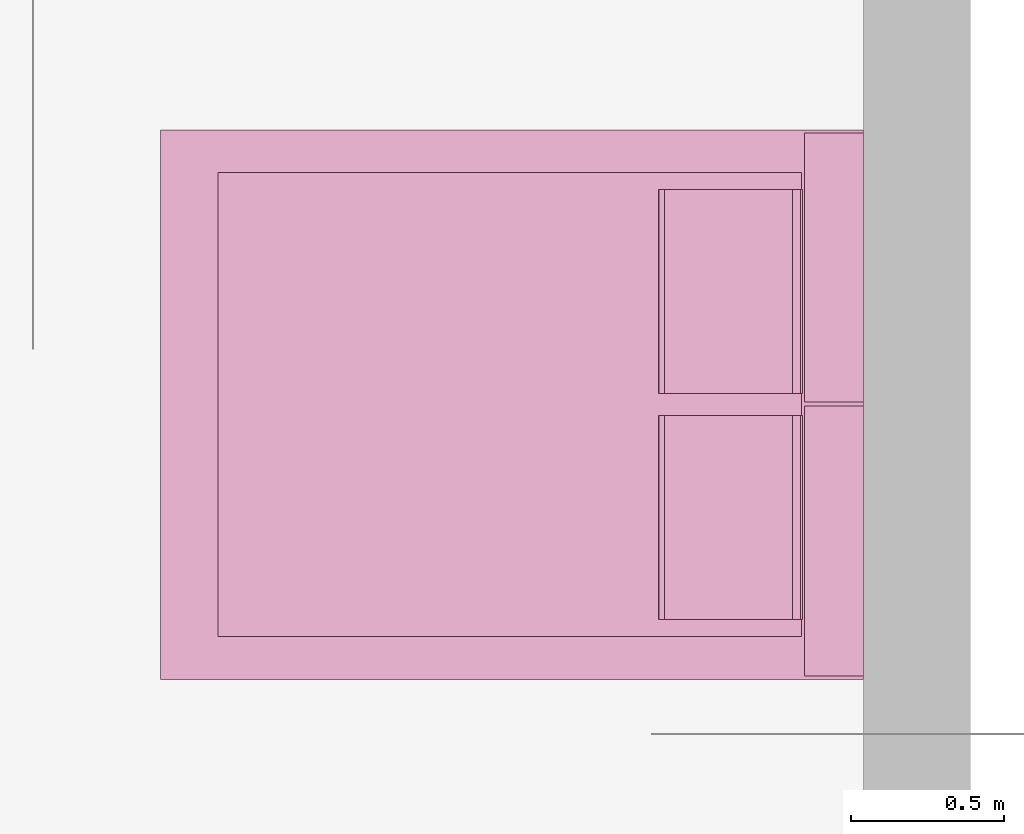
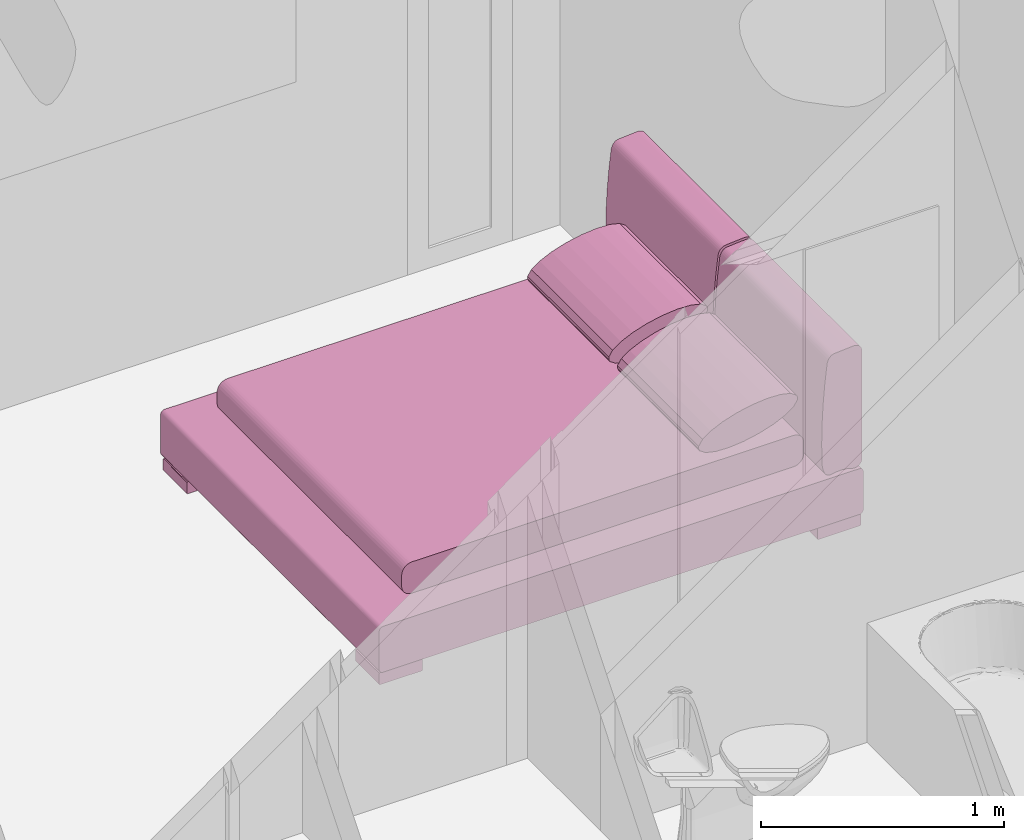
# One storey, part 28 of 40: 1 furnishing.
"""IFC2X3 building model written with IfcOpenShell, lengths in metres."""

from ifc_helpers import new_model, entity, si_unit, converted_unit, derived_unit, direction, frame, frame_2d, origin, place, context, subcontext, project, spatial, polyline, circle_curve, parameter, trimmed, segment, composite_curve, outline, extrude, source, transform, mapped, material, material_list, type_object, type_shapes, element, save


model = new_model("IFC2X3")

# Units and contexts
model_context = context("Model", 3, precision=1e-05, world=origin(), true_north=direction((6.12303176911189e-17, 1.0)))
body_context = subcontext(model_context, "Body", "Model", "MODEL_VIEW")
ifc_project = project(units=[si_unit("LENGTHUNIT", "METRE"), si_unit("AREAUNIT", "SQUARE_METRE"), si_unit("VOLUMEUNIT", "CUBIC_METRE"), converted_unit("PLANEANGLEUNIT", "DEGREE", entity("IfcRatioMeasure", 0.0174532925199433), si_unit("PLANEANGLEUNIT", "RADIAN"), dimensions=[0, 0, 0, 0, 0, 0, 0]), si_unit("MASSUNIT", "GRAM", prefix="KILO"), derived_unit("MASSDENSITYUNIT", [(si_unit("MASSUNIT", "GRAM", prefix="KILO"), 1), (si_unit("LENGTHUNIT", "METRE"), -3)]), si_unit("TIMEUNIT", "SECOND"), si_unit("FREQUENCYUNIT", "HERTZ"), si_unit("THERMODYNAMICTEMPERATUREUNIT", "DEGREE_CELSIUS"), derived_unit("THERMALTRANSMITTANCEUNIT", [(si_unit("MASSUNIT", "GRAM", prefix="KILO"), 1), (si_unit("THERMODYNAMICTEMPERATUREUNIT", "KELVIN"), -1), (si_unit("TIMEUNIT", "SECOND"), -3)]), derived_unit("VOLUMETRICFLOWRATEUNIT", [(si_unit("LENGTHUNIT", "METRE"), 3), (si_unit("TIMEUNIT", "SECOND"), -1)]), si_unit("ELECTRICCURRENTUNIT", "AMPERE"), si_unit("ELECTRICVOLTAGEUNIT", "VOLT"), si_unit("POWERUNIT", "WATT"), si_unit("FORCEUNIT", "NEWTON", prefix="KILO"), si_unit("ILLUMINANCEUNIT", "LUX"), si_unit("LUMINOUSFLUXUNIT", "LUMEN"), si_unit("LUMINOUSINTENSITYUNIT", "CANDELA"), derived_unit("USERDEFINED", [(si_unit("MASSUNIT", "GRAM", prefix="KILO"), -1), (si_unit("LENGTHUNIT", "METRE"), -2), (si_unit("TIMEUNIT", "SECOND"), 3), (si_unit("LUMINOUSFLUXUNIT", "LUMEN"), 1)]), derived_unit("LINEARVELOCITYUNIT", [(si_unit("LENGTHUNIT", "METRE"), 1), (si_unit("TIMEUNIT", "SECOND"), -1)]), si_unit("PRESSUREUNIT", "PASCAL"), derived_unit("USERDEFINED", [(si_unit("LENGTHUNIT", "METRE"), -2), (si_unit("MASSUNIT", "GRAM", prefix="KILO"), 1), (si_unit("TIMEUNIT", "SECOND"), -2)])], contexts=[model_context])

# Site, building, storey, space
site_placement = place(None, origin())
site = spatial("IfcSite", under=ifc_project, at=site_placement, Name="Surface", CompositionType="ELEMENT")
building_placement = place(site_placement, origin())
building = spatial("IfcBuilding", under=site, at=building_placement, CompositionType="ELEMENT")
storey_placement = place(building_placement, origin())
storey = spatial("IfcBuildingStorey", under=building, at=storey_placement, Name="RDC", CompositionType="ELEMENT", Elevation=-1.0941605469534e-13)
space_placement = place(storey_placement, origin())
space = spatial("IfcSpace", under=storey, at=space_placement, Name="2", CompositionType="ELEMENT", InteriorOrExteriorSpace="INTERNAL")

# Furnishing
ifc_material_1 = material(Name="Textile - Pêche")
ifc_material_2 = material(Name="Textile - Bleu pâle")
ifc_material_3 = material(Name="Plastique - Noir")
ifc_material_list_1 = material_list([ifc_material_1, ifc_material_2, ifc_material_3])
ifc_material_list_2 = material_list([ifc_material_1, ifc_material_2, ifc_material_3])
furniture_type = type_object("IfcFurnitureType", Name="1800mm x 2200mm", material=ifc_material_list_2)
shared_shape = source(origin(), body_context, "Body", "SweptSolid", [
    extrude(outline(composite_curve([segment(trimmed(circle_curve(frame_2d((0.384437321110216, 4.72763725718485), x_axis=(1.0, 0.0)), 5.04670221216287), [parameter(265.287727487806)], [parameter(266.304182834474)], True, "PARAMETER"), True, "CONTINUOUS"), segment(trimmed(circle_curve(frame_2d((0.0616575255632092, -0.269434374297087), x_axis=(1.0, 0.0)), 0.0392166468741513), [parameter(266.304182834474)], [parameter(2.74799924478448e-12)], True, "PARAMETER"), True, "CONTINUOUS"), segment(polyline([(0.100874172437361, -0.269434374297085), (0.10087417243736, -0.259434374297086)]), True, "CONTINUOUS"), segment(polyline([(0.10087417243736, -0.259434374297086), (0.100874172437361, 0.273410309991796)]), True, "CONTINUOUS"), segment(trimmed(circle_curve(frame_2d((0.065060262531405, 0.270439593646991), x_axis=(1.0, 0.0)), 0.0359369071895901), [parameter(4.74175364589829)], [parameter(110.003231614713)], True, "PARAMETER"), True, "CONTINUOUS"), segment(trimmed(circle_curve(frame_2d((-0.00187936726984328, 0.454322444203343), x_axis=(1.0, 0.0)), 0.159751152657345), [parameter(254.921907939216)], [parameter(290.003231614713)], True, "PARAMETER"), False, "CONTINUOUS"), segment(trimmed(circle_curve(frame_2d((-0.0499478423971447, 0.275901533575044), x_axis=(1.0, 0.0)), 0.0250314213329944), [parameter(74.921907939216)], [parameter(98.4993313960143)], True, "PARAMETER"), True, "CONTINUOUS"), segment(trimmed(circle_curve(frame_2d((-0.0489335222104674, 0.269114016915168), x_axis=(1.0, 0.0)), 0.0318943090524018), [parameter(98.4993313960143)], [parameter(155.198538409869)], True, "PARAMETER"), True, "CONTINUOUS"), segment(trimmed(circle_curve(frame_2d((0.041964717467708, 0.227110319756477), x_axis=(1.0, 0.0)), 0.132028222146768), [parameter(155.198538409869)], [parameter(178.300939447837)], True, "PARAMETER"), True, "CONTINUOUS"), segment(trimmed(circle_curve(frame_2d((3.04960407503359, 0.137895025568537), x_axis=(1.0, 0.0)), 3.14099048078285), [parameter(178.300939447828)], [parameter(187.322955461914)], True, "PARAMETER"), True, "CONTINUOUS"), segment(trimmed(circle_curve(frame_2d((-0.0133165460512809, -0.255721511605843), x_axis=(1.0, 0.0)), 0.0528815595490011), [parameter(187.322955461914)], [parameter(220.34956436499)], True, "PARAMETER"), True, "CONTINUOUS"), segment(trimmed(circle_curve(frame_2d((-0.0273249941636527, -0.267622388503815), x_axis=(1.0, 0.0)), 0.0345003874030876), [parameter(220.34956436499)], [parameter(265.287727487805)], True, "PARAMETER"), True, "CONTINUOUS")], self_intersect=False)), frame((-0.889301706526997, 0.100874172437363, 0.606438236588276), z_axis=(1.0, 0.0, 0.0), x_axis=(0.0, -1.0, 0.0)), (0.0, 0.0, 1.0), 0.883952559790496),
    extrude(outline(composite_curve([segment(trimmed(circle_curve(frame_2d((0.384437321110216, 4.72763725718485), x_axis=(1.0, 0.0)), 5.04670221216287), [parameter(265.287727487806)], [parameter(266.304182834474)], True, "PARAMETER"), True, "CONTINUOUS"), segment(trimmed(circle_curve(frame_2d((0.0616575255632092, -0.269434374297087), x_axis=(1.0, 0.0)), 0.0392166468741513), [parameter(266.304182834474)], [parameter(2.74799924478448e-12)], True, "PARAMETER"), True, "CONTINUOUS"), segment(polyline([(0.100874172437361, -0.269434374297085), (0.10087417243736, -0.259434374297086)]), True, "CONTINUOUS"), segment(polyline([(0.10087417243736, -0.259434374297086), (0.100874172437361, 0.273410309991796)]), True, "CONTINUOUS"), segment(trimmed(circle_curve(frame_2d((0.065060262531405, 0.270439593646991), x_axis=(1.0, 0.0)), 0.0359369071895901), [parameter(4.74175364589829)], [parameter(110.003231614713)], True, "PARAMETER"), True, "CONTINUOUS"), segment(trimmed(circle_curve(frame_2d((-0.00187936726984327, 0.454322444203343), x_axis=(1.0, 0.0)), 0.159751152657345), [parameter(254.921907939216)], [parameter(290.003231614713)], True, "PARAMETER"), False, "CONTINUOUS"), segment(trimmed(circle_curve(frame_2d((-0.0499478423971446, 0.275901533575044), x_axis=(1.0, 0.0)), 0.0250314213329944), [parameter(74.921907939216)], [parameter(98.4993313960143)], True, "PARAMETER"), True, "CONTINUOUS"), segment(trimmed(circle_curve(frame_2d((-0.0489335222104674, 0.269114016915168), x_axis=(1.0, 0.0)), 0.0318943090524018), [parameter(98.4993313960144)], [parameter(155.198538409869)], True, "PARAMETER"), True, "CONTINUOUS"), segment(trimmed(circle_curve(frame_2d((0.041964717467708, 0.227110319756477), x_axis=(1.0, 0.0)), 0.132028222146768), [parameter(155.198538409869)], [parameter(178.300939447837)], True, "PARAMETER"), True, "CONTINUOUS"), segment(trimmed(circle_curve(frame_2d((3.04960407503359, 0.137895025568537), x_axis=(1.0, 0.0)), 3.14099048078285), [parameter(178.300939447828)], [parameter(187.322955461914)], True, "PARAMETER"), True, "CONTINUOUS"), segment(trimmed(circle_curve(frame_2d((-0.0133165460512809, -0.255721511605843), x_axis=(1.0, 0.0)), 0.0528815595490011), [parameter(187.322955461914)], [parameter(220.34956436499)], True, "PARAMETER"), True, "CONTINUOUS"), segment(trimmed(circle_curve(frame_2d((-0.0273249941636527, -0.267622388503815), x_axis=(1.0, 0.0)), 0.0345003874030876), [parameter(220.34956436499)], [parameter(265.287727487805)], True, "PARAMETER"), True, "CONTINUOUS")], self_intersect=False)), frame((0.00891524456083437, 0.10087417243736, 0.606438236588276), z_axis=(1.0, 0.0, 0.0), x_axis=(0.0, -1.0, 0.0)), (0.0, 0.0, 1.0), 0.88038646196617),
    extrude(outline(composite_curve([segment(polyline([(-0.905913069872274, -0.0787156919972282), (0.905913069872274, -0.0787156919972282)]), True, "CONTINUOUS"), segment(trimmed(circle_curve(frame_2d((0.905913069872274, -0.0287156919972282), x_axis=(-1.0, 0.0)), 0.05), [parameter(89.9999999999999)], [parameter(180.0)], True, "PARAMETER"), True, "CONTINUOUS"), segment(polyline([(0.955913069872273, -0.0287156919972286), (0.955913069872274, 0.0287156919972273)]), True, "CONTINUOUS"), segment(trimmed(circle_curve(frame_2d((0.905913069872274, 0.0287156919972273), x_axis=(-1.0, 0.0)), 0.05), [parameter(180.0)], [parameter(270.0)], True, "PARAMETER"), True, "CONTINUOUS"), segment(polyline([(0.905913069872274, 0.0787156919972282), (-0.905913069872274, 0.0787156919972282)]), True, "CONTINUOUS"), segment(trimmed(circle_curve(frame_2d((-0.905913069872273, 0.0287156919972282), x_axis=(-1.0, 0.0)), 0.05), [parameter(270.0)], [parameter(360.0)], True, "PARAMETER"), True, "CONTINUOUS"), segment(polyline([(-0.955913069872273, 0.0287156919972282), (-0.955913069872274, -0.0287156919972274)]), True, "CONTINUOUS"), segment(trimmed(circle_curve(frame_2d((-0.905913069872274, -0.0287156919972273), x_axis=(-1.0, 0.0)), 0.05), [parameter(360.0)], [parameter(90.0000000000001)], True, "PARAMETER"), True, "CONTINUOUS")], self_intersect=False)), frame((-0.760000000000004, 1.15891204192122, 0.381468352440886), z_axis=(1.0, 0.0, 0.0), x_axis=(0.0, -1.0, 0.0)), (0.0, 0.0, 1.0), 1.52),
    extrude(outline(composite_curve([segment(polyline([(-1.13133745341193, -0.115046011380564), (1.13133745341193, -0.115046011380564)]), True, "CONTINUOUS"), segment(trimmed(circle_curve(frame_2d((1.13133745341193, -0.0950460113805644), x_axis=(-1.0, 0.0)), 0.0199999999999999), [parameter(89.9999999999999)], [parameter(180.0)], True, "PARAMETER"), True, "CONTINUOUS"), segment(polyline([(1.15133745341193, -0.0950460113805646), (1.15133745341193, 0.0950460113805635)]), True, "CONTINUOUS"), segment(trimmed(circle_curve(frame_2d((1.13133745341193, 0.0950460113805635), x_axis=(-1.0, 0.0)), 0.02), [parameter(180.0)], [parameter(270.0)], True, "PARAMETER"), True, "CONTINUOUS"), segment(polyline([(1.13133745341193, 0.115046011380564), (-1.13133745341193, 0.115046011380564)]), True, "CONTINUOUS"), segment(trimmed(circle_curve(frame_2d((-1.13133745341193, 0.0950460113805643), x_axis=(-1.0, 0.0)), 0.0200000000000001), [parameter(269.999999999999)], [parameter(360.0)], True, "PARAMETER"), True, "CONTINUOUS"), segment(polyline([(-1.15133745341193, 0.0950460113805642), (-1.15133745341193, -0.0950460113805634)]), True, "CONTINUOUS"), segment(trimmed(circle_curve(frame_2d((-1.13133745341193, -0.0950460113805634), x_axis=(-1.0, 0.0)), 0.02), [parameter(360.0)], [parameter(90.0000000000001)], True, "PARAMETER"), True, "CONTINUOUS")], self_intersect=False)), frame((-0.9, 1.15133745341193, 0.181651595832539), z_axis=(1.0, 0.0, 0.0), x_axis=(0.0, -1.0, 0.0)), (0.0, 0.0, 1.0), 1.8),
    extrude(outline(composite_curve([segment(trimmed(circle_curve(frame_2d((-0.0980144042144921, -0.0252752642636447), x_axis=(1.0, 0.0)), 0.00499999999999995), [parameter(180.0)], [parameter(270.0)], True, "PARAMETER"), True, "CONTINUOUS"), segment(polyline([(-0.0980144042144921, -0.0302752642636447), (0.0980144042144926, -0.0302752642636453)]), True, "CONTINUOUS"), segment(trimmed(circle_curve(frame_2d((0.0980144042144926, -0.025275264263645), x_axis=(1.0, 0.0)), 0.005), [parameter(270.0)], [parameter(1.01777749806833e-13)], True, "PARAMETER"), True, "CONTINUOUS"), segment(polyline([(0.103014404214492, -0.025275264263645), (0.103014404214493, 0.0252752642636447)]), True, "CONTINUOUS"), segment(trimmed(circle_curve(frame_2d((0.0980144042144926, 0.0252752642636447), x_axis=(1.0, 0.0)), 0.00499999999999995), [parameter(2.54444374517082e-13)], [parameter(90.0000000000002)], True, "PARAMETER"), True, "CONTINUOUS"), segment(polyline([(0.0980144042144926, 0.0302752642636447), (-0.0980144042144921, 0.0302752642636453)]), True, "CONTINUOUS"), segment(trimmed(circle_curve(frame_2d((-0.0980144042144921, 0.025275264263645), x_axis=(1.0, 0.0)), 0.005), [parameter(90.0000000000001)], [parameter(180.0)], True, "PARAMETER"), True, "CONTINUOUS"), segment(polyline([(-0.103014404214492, 0.025275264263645), (-0.103014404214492, -0.0252752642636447)]), True, "CONTINUOUS")], self_intersect=False)), frame((-0.889301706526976, 2.19360083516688, 0.0302752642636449), z_axis=(1.0, 0.0, 0.0), x_axis=(0.0, -1.0, 0.0)), (0.0, 0.0, 1.0), 0.196068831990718),
    extrude(outline(composite_curve([segment(trimmed(circle_curve(frame_2d((-0.0980144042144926, -0.0252752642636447), x_axis=(1.0, 0.0)), 0.00499999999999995), [parameter(180.0)], [parameter(270.0)], True, "PARAMETER"), True, "CONTINUOUS"), segment(polyline([(-0.0980144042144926, -0.0302752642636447), (0.0980144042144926, -0.0302752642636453)]), True, "CONTINUOUS"), segment(trimmed(circle_curve(frame_2d((0.0980144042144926, -0.025275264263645), x_axis=(1.0, 0.0)), 0.005), [parameter(270.0)], [parameter(360.0)], True, "PARAMETER"), True, "CONTINUOUS"), segment(polyline([(0.103014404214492, -0.025275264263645), (0.103014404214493, 0.0252752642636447)]), True, "CONTINUOUS"), segment(trimmed(circle_curve(frame_2d((0.0980144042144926, 0.0252752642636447), x_axis=(1.0, 0.0)), 0.00499999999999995), [parameter(360.0)], [parameter(90.0000000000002)], True, "PARAMETER"), True, "CONTINUOUS"), segment(polyline([(0.0980144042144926, 0.0302752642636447), (-0.0980144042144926, 0.0302752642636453)]), True, "CONTINUOUS"), segment(trimmed(circle_curve(frame_2d((-0.0980144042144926, 0.025275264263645), x_axis=(1.0, 0.0)), 0.005), [parameter(90.0000000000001)], [parameter(180.0)], True, "PARAMETER"), True, "CONTINUOUS"), segment(polyline([(-0.103014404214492, 0.025275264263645), (-0.103014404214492, -0.0252752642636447)]), True, "CONTINUOUS")], self_intersect=False)), frame((0.693232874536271, 2.19360083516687, 0.030275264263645), z_axis=(1.0, 0.0, 0.0), x_axis=(0.0, -1.0, 0.0)), (0.0, 0.0, 1.0), 0.196068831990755),
    extrude(outline(composite_curve([segment(polyline([(-0.025275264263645, -0.103014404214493), (0.0252752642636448, -0.103014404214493)]), True, "CONTINUOUS"), segment(trimmed(circle_curve(frame_2d((0.0252752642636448, -0.0980144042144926), x_axis=(0.0, 1.0)), 0.005), [parameter(180.0)], [parameter(270.0)], True, "PARAMETER"), True, "CONTINUOUS"), segment(polyline([(0.0302752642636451, -0.0980144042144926), (0.0302752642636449, 0.0980144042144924)]), True, "CONTINUOUS"), segment(trimmed(circle_curve(frame_2d((0.0252752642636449, 0.0980144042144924), x_axis=(0.0, 1.0)), 0.00499999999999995), [parameter(270.0)], [parameter(0.0)], True, "PARAMETER"), True, "CONTINUOUS"), segment(polyline([(0.0252752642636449, 0.103014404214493), (-0.0252752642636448, 0.103014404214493)]), True, "CONTINUOUS"), segment(trimmed(circle_curve(frame_2d((-0.0252752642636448, 0.0980144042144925), x_axis=(0.0, 1.0)), 0.005), [parameter(2.03555499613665e-13)], [parameter(90.0000000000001)], True, "PARAMETER"), True, "CONTINUOUS"), segment(polyline([(-0.0302752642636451, 0.0980144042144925), (-0.0302752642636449, -0.0980144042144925)]), True, "CONTINUOUS"), segment(trimmed(circle_curve(frame_2d((-0.0252752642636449, -0.0980144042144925), x_axis=(0.0, 1.0)), 0.00499999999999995), [parameter(90.0000000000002)], [parameter(180.0)], True, "PARAMETER"), True, "CONTINUOUS")], self_intersect=False)), frame((-0.889301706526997, 0.109074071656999, 0.030275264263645), z_axis=(1.0, 0.0, 0.0), x_axis=(0.0, 0.0, -1.0)), (0.0, 0.0, 1.0), 0.196068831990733),
    extrude(outline(composite_curve([segment(polyline([(-0.025275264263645, -0.103014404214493), (0.0252752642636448, -0.103014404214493)]), True, "CONTINUOUS"), segment(trimmed(circle_curve(frame_2d((0.0252752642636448, -0.0980144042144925), x_axis=(0.0, 1.0)), 0.005), [parameter(180.0)], [parameter(270.0)], True, "PARAMETER"), True, "CONTINUOUS"), segment(polyline([(0.0302752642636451, -0.0980144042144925), (0.0302752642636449, 0.0980144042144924)]), True, "CONTINUOUS"), segment(trimmed(circle_curve(frame_2d((0.0252752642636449, 0.0980144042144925), x_axis=(0.0, 1.0)), 0.00499999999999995), [parameter(269.999999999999)], [parameter(360.0)], True, "PARAMETER"), True, "CONTINUOUS"), segment(polyline([(0.0252752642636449, 0.103014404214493), (-0.0252752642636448, 0.103014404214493)]), True, "CONTINUOUS"), segment(trimmed(circle_curve(frame_2d((-0.0252752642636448, 0.0980144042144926), x_axis=(0.0, 1.0)), 0.005), [parameter(360.0)], [parameter(89.9999999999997)], True, "PARAMETER"), True, "CONTINUOUS"), segment(polyline([(-0.0302752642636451, 0.0980144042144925), (-0.0302752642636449, -0.0980144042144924)]), True, "CONTINUOUS"), segment(trimmed(circle_curve(frame_2d((-0.0252752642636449, -0.0980144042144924), x_axis=(0.0, 1.0)), 0.00499999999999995), [parameter(89.9999999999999)], [parameter(180.0)], True, "PARAMETER"), True, "CONTINUOUS")], self_intersect=False)), frame((0.693232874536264, 0.109074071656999, 0.030275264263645), z_axis=(1.0, 0.0, 0.0), x_axis=(0.0, 0.0, -1.0)), (0.0, 0.0, 1.0), 0.196068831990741),
    extrude(outline(polyline([(-0.055148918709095, -0.233577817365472), (-0.0422900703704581, -0.233577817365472), (-0.0137906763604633, -0.216465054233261), (0.0160586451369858, -0.178163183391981), (0.044336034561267, -0.122421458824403), (0.0682735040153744, -0.0546962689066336), (0.0855278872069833, 0.0183829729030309), (0.0944102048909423, 0.0896627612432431), (0.0940509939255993, 0.152165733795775), (0.084485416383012, 0.199773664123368), (0.0666498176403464, 0.227826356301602), (0.0551489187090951, 0.233577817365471), (0.0422900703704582, 0.233577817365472), (0.0137906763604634, 0.21646505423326), (-0.0160586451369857, 0.178163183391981), (-0.0443360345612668, 0.122421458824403), (-0.0682735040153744, 0.0546962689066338), (-0.0855278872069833, -0.0183829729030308), (-0.0944102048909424, -0.089662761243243), (-0.0940509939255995, -0.152165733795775), (-0.0844854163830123, -0.199773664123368), (-0.0666498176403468, -0.227826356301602), (-0.055148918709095, -0.233577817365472)])), frame((-0.704488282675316, 0.435483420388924, 0.553826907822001), z_axis=(1.0, 0.0, 0.0), x_axis=(0.0, 0.0322127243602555, -0.999481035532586)), (0.0, 0.0, 1.0), 0.668869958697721),
    extrude(outline(polyline([(-0.0551489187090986, -0.233577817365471), (-0.0422900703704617, -0.233577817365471), (-0.0137906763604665, -0.21646505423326), (0.0160586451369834, -0.17816318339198), (0.0443360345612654, -0.122421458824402), (0.0682735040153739, -0.0546962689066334), (0.085527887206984, 0.0183829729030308), (0.0944102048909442, 0.0896627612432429), (0.0940509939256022, 0.152165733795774), (0.0844854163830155, 0.199773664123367), (0.0666498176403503, 0.227826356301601), (0.0551489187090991, 0.233577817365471), (0.0422900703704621, 0.233577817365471), (0.013790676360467, 0.216465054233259), (-0.0160586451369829, 0.17816318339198), (-0.044336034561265, 0.122421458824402), (-0.0682735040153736, 0.0546962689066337), (-0.0855278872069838, -0.0183829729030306), (-0.094410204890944, -0.0896627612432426), (-0.0940509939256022, -0.152165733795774), (-0.0844854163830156, -0.199773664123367), (-0.0666498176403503, -0.227826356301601), (-0.0551489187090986, -0.233577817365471)])), frame((0.0356183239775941, 0.435483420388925, 0.553826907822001), z_axis=(1.0, 0.0, 0.0), x_axis=(0.0, 0.032212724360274, -0.999481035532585)), (0.0, 0.0, 1.0), 0.668869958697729),
])
type_shapes(furniture_type, [shared_shape])
furnishing_placement = place(space_placement, frame((16.4475111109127, 5.92701067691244, 0.0), z_axis=(0.0, 0.0, 1.0), x_axis=(0.0, 1.0, 0.0)))
element("IfcFurnishingElement", 1, at=furnishing_placement, inside=space, type_object=furniture_type, material=ifc_material_list_1, Name="Lit - Divan:1800mm x 2200mm", ObjectType="1800mm x 2200mm", context=body_context, shape_type="MappedRepresentation", body=[
    mapped(shared_shape, transform((0.0, 0.0, 0.0), scale=1.0)),
])

save(model, "model.ifc")
